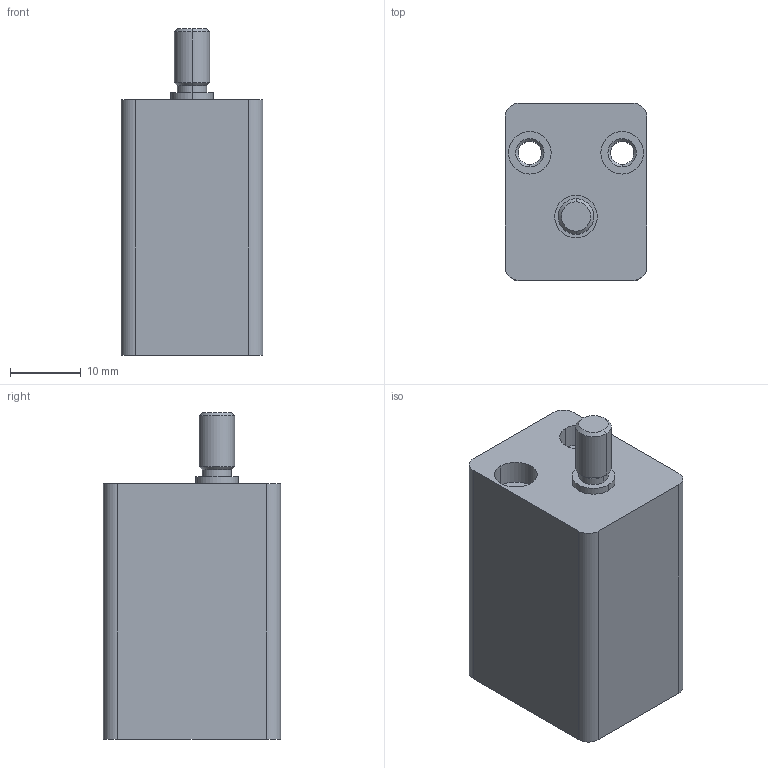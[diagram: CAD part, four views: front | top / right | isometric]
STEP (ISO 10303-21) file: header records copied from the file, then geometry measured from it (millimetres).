
FILE_DESCRIPTION((''),'2;1');
FILE_NAME('0822010502_ASM','2015-07-01T',('vol1hc'),(''),'PRO/ENGINEER BY PARAMETRIC TECHNOLOGY CORPORATION, 2012421','PRO/ENGINEER BY PARAMETRIC TECHNOLOGY CORPORATION, 2012421','');
FILE_SCHEMA(('CONFIG_CONTROL_DESIGN','SHAPE_APPEARANCE_LAYERS_GROUPS'));
Length unit declared in the file: millimetre
Products named in the file (3): 0822010502-A; 0822010502-B; 0822010502_ASM
Assembly tree (2 placements, depth 2):
  0822010502_ASM
    0822010502-A
    0822010502-B
Bounding box: 20 x 25 x 46 mm (x, y, z)
Volume: 15757.9 mm3; surface area: 7483.6 mm2
Topology: 2 solids, 2 shells, 72 faces, 150 edges, 94 vertices
Faces by surface type: cylinder 36, plane 20, cone 16
Entity records: 2052 total; most frequent: DIRECTION 390, CARTESIAN_POINT 321, ORIENTED_EDGE 300, AXIS2_PLACEMENT_3D 163, EDGE_CURVE 150, VERTEX_POINT 94, EDGE_LOOP 88, CIRCLE 86
